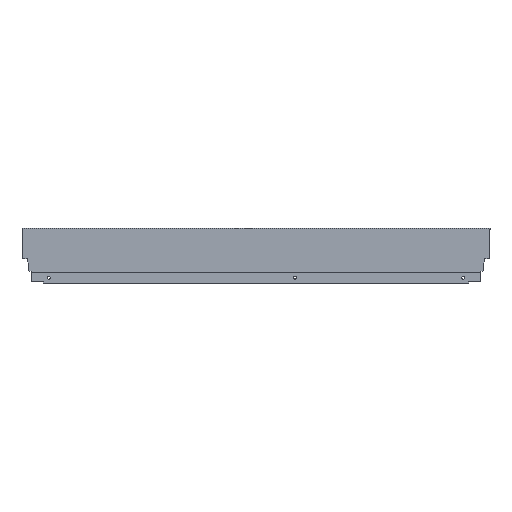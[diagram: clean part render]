
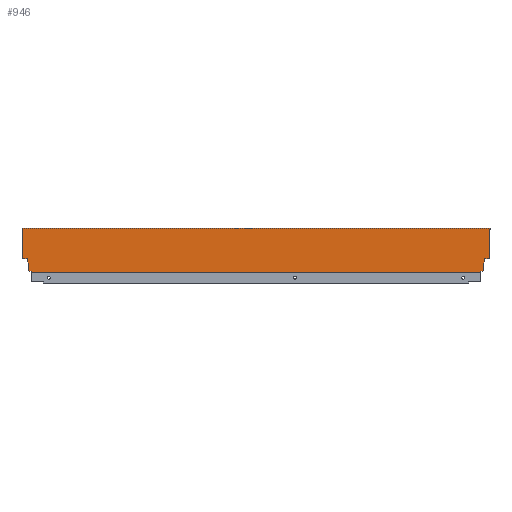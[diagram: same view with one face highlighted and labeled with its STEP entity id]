
A CAD part, top view. The second image highlights one B-rep face of the part: STEP entity #946.
In plain terms, the highlighted planar face has unit normal (0, 0, 1).
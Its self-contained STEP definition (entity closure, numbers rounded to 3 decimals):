
#73 = CARTESIAN_POINT ( 'NONE',  ( -708.1, 10.765, 7.5 ) ) ;
#74 = CARTESIAN_POINT ( 'NONE',  ( 1., 68., 7.5 ) ) ;
#77 = CARTESIAN_POINT ( 'NONE',  ( -717., 66.5, 7.5 ) ) ;
#80 = CARTESIAN_POINT ( 'NONE',  ( -13.004, 1.146, 7.5 ) ) ;
#81 = CARTESIAN_POINT ( 'NONE',  ( -703.996, 1.146, 7.5 ) ) ;
#89 = CARTESIAN_POINT ( 'NONE',  ( -703.996, 0., 7.5 ) ) ;
#90 = CARTESIAN_POINT ( 'NONE',  ( -709.94, 21.2, 7.5 ) ) ;
#94 = CARTESIAN_POINT ( 'NONE',  ( -718., 66.5, 7.5 ) ) ;
#95 = CARTESIAN_POINT ( 'NONE',  ( 0., 21.2, 7.5 ) ) ;
#97 = CARTESIAN_POINT ( 'NONE',  ( -13.004, 0., 7.5 ) ) ;
#99 = CARTESIAN_POINT ( 'NONE',  ( -708.1, 2.64, 7.5 ) ) ;
#100 = CARTESIAN_POINT ( 'NONE',  ( -8.9, 2.64, 7.5 ) ) ;
#115 = CARTESIAN_POINT ( 'NONE',  ( -717., 21.2, 7.5 ) ) ;
#118 = CARTESIAN_POINT ( 'NONE',  ( -718., 68., 7.5 ) ) ;
#134 = CARTESIAN_POINT ( 'NONE',  ( 1., 66.5, 7.5 ) ) ;
#144 = CARTESIAN_POINT ( 'NONE',  ( -7.06, 21.2, 7.5 ) ) ;
#174 = VERTEX_POINT ( 'NONE', #144 ) ;
#184 = VERTEX_POINT ( 'NONE', #134 ) ;
#200 = VERTEX_POINT ( 'NONE', #118 ) ;
#203 = VERTEX_POINT ( 'NONE', #115 ) ;
#218 = VERTEX_POINT ( 'NONE', #100 ) ;
#219 = VERTEX_POINT ( 'NONE', #99 ) ;
#221 = VERTEX_POINT ( 'NONE', #97 ) ;
#223 = VERTEX_POINT ( 'NONE', #95 ) ;
#224 = VERTEX_POINT ( 'NONE', #94 ) ;
#228 = VERTEX_POINT ( 'NONE', #90 ) ;
#229 = VERTEX_POINT ( 'NONE', #89 ) ;
#237 = VERTEX_POINT ( 'NONE', #81 ) ;
#238 = VERTEX_POINT ( 'NONE', #80 ) ;
#241 = VERTEX_POINT ( 'NONE', #77 ) ;
#244 = VERTEX_POINT ( 'NONE', #74 ) ;
#245 = VERTEX_POINT ( 'NONE', #73 ) ;
#252 = VERTEX_POINT ( 'NONE', #265 ) ;
#258 = VERTEX_POINT ( 'NONE', #267 ) ;
#265 = CARTESIAN_POINT ( 'NONE',  ( -8.9, 10.765, 7.5 ) ) ;
#267 = CARTESIAN_POINT ( 'NONE',  ( 0., 66.5, 7.5 ) ) ;
#270 = CARTESIAN_POINT ( 'NONE',  ( 0., 0., 7.5 ) ) ;
#271 = DIRECTION ( 'NONE',  ( 0., -1., 0. ) ) ;
#508 = CARTESIAN_POINT ( 'NONE',  ( -708.1, 2.64, 7.5 ) ) ;
#514 = CARTESIAN_POINT ( 'NONE',  ( 1., 68., 7.5 ) ) ;
#515 = DIRECTION ( 'NONE',  ( 0., -1., 0. ) ) ;
#516 = CARTESIAN_POINT ( 'NONE',  ( -8.9, 2.64, 7.5 ) ) ;
#517 = DIRECTION ( 'NONE',  ( -0.94, -0.342, 0. ) ) ;
#518 = CARTESIAN_POINT ( 'NONE',  ( 1., 66.5, 7.5 ) ) ;
#519 = DIRECTION ( 'NONE',  ( -1., 0., 0. ) ) ;
#520 = CARTESIAN_POINT ( 'NONE',  ( -13.004, 1.146, 7.5 ) ) ;
#521 = DIRECTION ( 'NONE',  ( 0., -1., 0. ) ) ;
#522 = CARTESIAN_POINT ( 'NONE',  ( 0., 21.2, 7.5 ) ) ;
#523 = DIRECTION ( 'NONE',  ( -1., 0., 0. ) ) ;
#524 = CARTESIAN_POINT ( 'NONE',  ( -703.996, 1.146, 7.5 ) ) ;
#525 = DIRECTION ( 'NONE',  ( 0., 1., 0. ) ) ;
#526 = CARTESIAN_POINT ( 'NONE',  ( -7.06, 21.2, 7.5 ) ) ;
#527 = DIRECTION ( 'NONE',  ( -0.174, -0.985, 0. ) ) ;
#528 = CARTESIAN_POINT ( 'NONE',  ( -708.1, 10.765, 7.5 ) ) ;
#529 = DIRECTION ( 'NONE',  ( 0., 1., 0. ) ) ;
#530 = CARTESIAN_POINT ( 'NONE',  ( -8.9, 10.765, 7.5 ) ) ;
#531 = DIRECTION ( 'NONE',  ( 0., -1., 0. ) ) ;
#532 = CARTESIAN_POINT ( 'NONE',  ( -717., 68., 7.5 ) ) ;
#533 = DIRECTION ( 'NONE',  ( 1., 0., 0. ) ) ;
#534 = CARTESIAN_POINT ( 'NONE',  ( -718., 66.5, 7.5 ) ) ;
#535 = DIRECTION ( 'NONE',  ( -0.94, 0.342, 0. ) ) ;
#536 = CARTESIAN_POINT ( 'NONE',  ( -722., 21.2, 7.5 ) ) ;
#537 = DIRECTION ( 'NONE',  ( -1., 0., 0. ) ) ;
#539 = CARTESIAN_POINT ( 'NONE',  ( -717., 0., 7.5 ) ) ;
#540 = DIRECTION ( 'NONE',  ( 0., -1., 0. ) ) ;
#542 = DIRECTION ( 'NONE',  ( 1., 0., 0. ) ) ;
#543 = CARTESIAN_POINT ( 'NONE',  ( -718., 66.5, 7.5 ) ) ;
#544 = DIRECTION ( 'NONE',  ( 0., 1., 0. ) ) ;
#545 = CARTESIAN_POINT ( 'NONE',  ( -717., 0., 7.5 ) ) ;
#546 = DIRECTION ( 'NONE',  ( 1., 0., 0. ) ) ;
#552 = CARTESIAN_POINT ( 'NONE',  ( -709.94, 21.2, 7.5 ) ) ;
#553 = DIRECTION ( 'NONE',  ( -0.174, 0.985, 0. ) ) ;
#563 = CARTESIAN_POINT ( 'NONE',  ( -717., 0., 7.5 ) ) ;
#572 = PLANE ( 'NONE',  #891 ) ;
#577 = DIRECTION ( 'NONE',  ( 0., 0., 1. ) ) ;
#578 = DIRECTION ( 'NONE',  ( 1., 0., 0. ) ) ;
#609 = EDGE_CURVE ( 'NONE', #258, #223, #1220, .T. ) ;
#641 = ORIENTED_EDGE ( 'NONE', *, *, #609, .F. ) ;
#642 = ORIENTED_EDGE ( 'NONE', *, *, #853, .F. ) ;
#653 = ORIENTED_EDGE ( 'NONE', *, *, #851, .F. ) ;
#659 = ORIENTED_EDGE ( 'NONE', *, *, #859, .F. ) ;
#660 = ORIENTED_EDGE ( 'NONE', *, *, #857, .F. ) ;
#661 = ORIENTED_EDGE ( 'NONE', *, *, #855, .F. ) ;
#662 = ORIENTED_EDGE ( 'NONE', *, *, #866, .T. ) ;
#663 = ORIENTED_EDGE ( 'NONE', *, *, #854, .F. ) ;
#664 = ORIENTED_EDGE ( 'NONE', *, *, #852, .F. ) ;
#668 = ORIENTED_EDGE ( 'NONE', *, *, #858, .F. ) ;
#669 = ORIENTED_EDGE ( 'NONE', *, *, #861, .F. ) ;
#670 = ORIENTED_EDGE ( 'NONE', *, *, #856, .F. ) ;
#671 = ORIENTED_EDGE ( 'NONE', *, *, #863, .T. ) ;
#672 = ORIENTED_EDGE ( 'NONE', *, *, #862, .F. ) ;
#673 = ORIENTED_EDGE ( 'NONE', *, *, #869, .F. ) ;
#674 = ORIENTED_EDGE ( 'NONE', *, *, #860, .F. ) ;
#675 = ORIENTED_EDGE ( 'NONE', *, *, #865, .F. ) ;
#676 = ORIENTED_EDGE ( 'NONE', *, *, #864, .T. ) ;
#851 = EDGE_CURVE ( 'NONE', #244, #184, #1565, .T. ) ;
#852 = EDGE_CURVE ( 'NONE', #218, #238, #1567, .T. ) ;
#853 = EDGE_CURVE ( 'NONE', #184, #258, #1569, .T. ) ;
#854 = EDGE_CURVE ( 'NONE', #238, #221, #1571, .T. ) ;
#855 = EDGE_CURVE ( 'NONE', #223, #174, #1573, .T. ) ;
#856 = EDGE_CURVE ( 'NONE', #229, #237, #1575, .T. ) ;
#857 = EDGE_CURVE ( 'NONE', #174, #252, #1577, .T. ) ;
#858 = EDGE_CURVE ( 'NONE', #219, #245, #1579, .T. ) ;
#859 = EDGE_CURVE ( 'NONE', #252, #218, #1581, .T. ) ;
#860 = EDGE_CURVE ( 'NONE', #200, #244, #1583, .T. ) ;
#861 = EDGE_CURVE ( 'NONE', #237, #219, #1518, .T. ) ;
#862 = EDGE_CURVE ( 'NONE', #228, #203, #1587, .T. ) ;
#863 = EDGE_CURVE ( 'NONE', #241, #203, #1589, .T. ) ;
#864 = EDGE_CURVE ( 'NONE', #224, #241, #1558, .T. ) ;
#865 = EDGE_CURVE ( 'NONE', #224, #200, #1593, .T. ) ;
#866 = EDGE_CURVE ( 'NONE', #229, #221, #1595, .T. ) ;
#869 = EDGE_CURVE ( 'NONE', #245, #228, #1586, .T. ) ;
#891 = AXIS2_PLACEMENT_3D ( 'NONE', #563, #577, #578 ) ;
#946 = ADVANCED_FACE ( 'NONE', ( #1617 ), #572, .T. ) ;
#1012 = VECTOR ( 'NONE', #271, 1000. ) ;
#1214 = EDGE_LOOP ( 'NONE', ( #674, #675, #676, #671, #672, #673, #668, #669, #670, #662, #663, #664, #659, #660, #661, #641, #642, #653 ) ) ;
#1220 = LINE ( 'NONE', #270, #1012 ) ;
#1518 = LINE ( 'NONE', #508, #1585 ) ;
#1558 = LINE ( 'NONE', #534, #1591 ) ;
#1560 = VECTOR ( 'NONE', #553, 1000. ) ;
#1565 = LINE ( 'NONE', #514, #1566 ) ;
#1566 = VECTOR ( 'NONE', #515, 1000. ) ;
#1567 = LINE ( 'NONE', #516, #1568 ) ;
#1568 = VECTOR ( 'NONE', #517, 1000. ) ;
#1569 = LINE ( 'NONE', #518, #1570 ) ;
#1570 = VECTOR ( 'NONE', #519, 1000. ) ;
#1571 = LINE ( 'NONE', #520, #1572 ) ;
#1572 = VECTOR ( 'NONE', #521, 1000. ) ;
#1573 = LINE ( 'NONE', #522, #1574 ) ;
#1574 = VECTOR ( 'NONE', #523, 1000. ) ;
#1575 = LINE ( 'NONE', #524, #1576 ) ;
#1576 = VECTOR ( 'NONE', #525, 1000. ) ;
#1577 = LINE ( 'NONE', #526, #1578 ) ;
#1578 = VECTOR ( 'NONE', #527, 1000. ) ;
#1579 = LINE ( 'NONE', #528, #1580 ) ;
#1580 = VECTOR ( 'NONE', #529, 1000. ) ;
#1581 = LINE ( 'NONE', #530, #1582 ) ;
#1582 = VECTOR ( 'NONE', #531, 1000. ) ;
#1583 = LINE ( 'NONE', #532, #1584 ) ;
#1584 = VECTOR ( 'NONE', #533, 1000. ) ;
#1585 = VECTOR ( 'NONE', #535, 1000. ) ;
#1586 = LINE ( 'NONE', #552, #1560 ) ;
#1587 = LINE ( 'NONE', #536, #1588 ) ;
#1588 = VECTOR ( 'NONE', #537, 1000. ) ;
#1589 = LINE ( 'NONE', #539, #1590 ) ;
#1590 = VECTOR ( 'NONE', #540, 1000. ) ;
#1591 = VECTOR ( 'NONE', #542, 1000. ) ;
#1593 = LINE ( 'NONE', #543, #1594 ) ;
#1594 = VECTOR ( 'NONE', #544, 1000. ) ;
#1595 = LINE ( 'NONE', #545, #1596 ) ;
#1596 = VECTOR ( 'NONE', #546, 1000. ) ;
#1617 = FACE_OUTER_BOUND ( 'NONE', #1214, .T. ) ;
